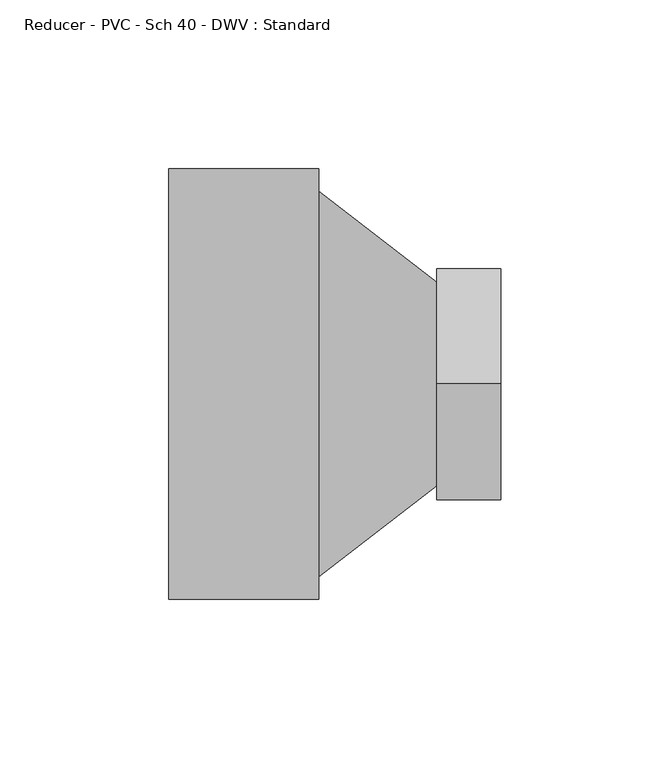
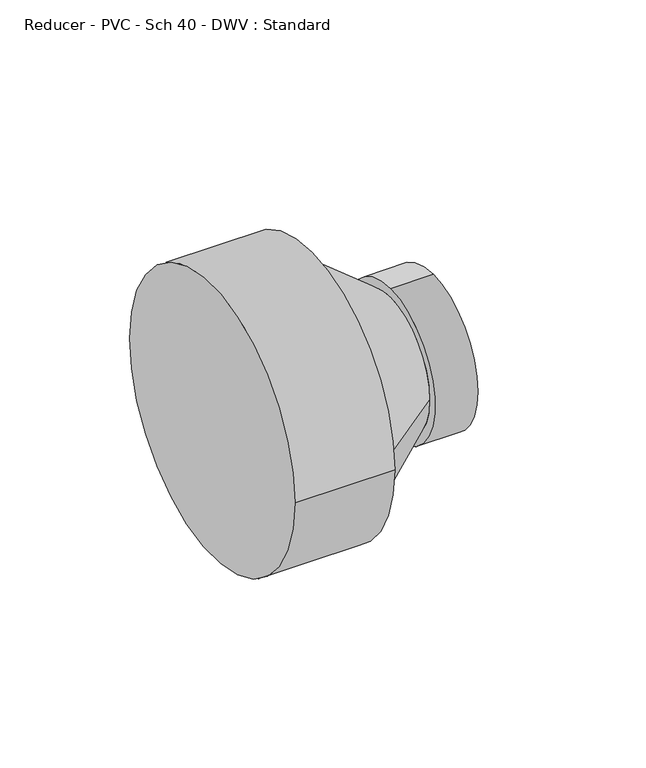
"""IFC4 building model written with IfcOpenShell, lengths in millimetres: pipe fitting geometry, Reducer - PVC - Sch 40 - DWV : Standard."""

from ifc_helpers import new_model, si_unit, frame, origin, place, context, project, spatial, polyline, circle_curve, source, transform, mapped, element, save
from ifc_brep_helpers import plane_surface, cylinder_surface, revolved_surface, advanced_brep


def reducer_pvc_sch_40_dwv_standard_49186a3e(model_context):
    return source(origin(), model_context, "Body", "AdvancedBrep", [
        advanced_brep(
        [(0.0, 63.754, 0.0), (0.0, -63.754, 0.0), (44.45, 63.754, 0.0), (44.45, -63.754, 0.0), (44.45, -57.15, 0.0), (44.45, 57.15, 0.0), (79.375, 30.1625, 0.0), (79.375, -30.1625, 0.0), (79.375, 0.0, 34.3154), (79.375, 0.0, -34.3154), (98.425, 0.0, 34.3154), (98.425, 0.0, -34.3154)],
        [
            (0, 1, circle_curve(frame((0.0, 0.0, 0.0), z_axis=(-1.0, 0.0, 0.0), x_axis=(0.0, -1.0, 0.0)), 63.754)),
            (1, 0, circle_curve(frame((0.0, 0.0, 0.0), z_axis=(-1.0, 0.0, 0.0), x_axis=(0.0, -1.0, 0.0)), 63.754)),
            (2, 3, circle_curve(frame((44.45, 0.0, 0.0), z_axis=(1.0, 0.0, 0.0), x_axis=(0.0, -1.0, 0.0)), 63.754)),
            (3, 2, circle_curve(frame((44.45, 0.0, 0.0), z_axis=(1.0, 0.0, 0.0), x_axis=(0.0, -1.0, 0.0)), 63.754)),
            (4, 5, circle_curve(frame((44.45, 0.0, 0.0), z_axis=(-1.0, 0.0, 0.0), x_axis=(0.0, -1.0, 0.0)), 57.15)),
            (5, 4, circle_curve(frame((44.45, 0.0, 0.0), z_axis=(-1.0, 0.0, 0.0), x_axis=(0.0, 1.0, 0.0)), 57.15)),
            (1, 3),
            (2, 0),
            (5, 6),
            (6, 7, circle_curve(frame((79.375, 0.0, 0.0), z_axis=(-1.0, 0.0, 0.0), x_axis=(0.0, 1.0, 0.0)), 30.1625)),
            (7, 4),
            (7, 6, circle_curve(frame((79.375, 0.0, 0.0), z_axis=(-1.0, 0.0, 0.0), x_axis=(0.0, -1.0, 0.0)), 30.1625)),
            (8, 9, circle_curve(frame((79.375, 0.0, 0.0), z_axis=(-1.0, 0.0, 0.0), x_axis=(0.0, 0.0, -1.0)), 34.3154)),
            (9, 8, circle_curve(frame((79.375, 0.0, 0.0), z_axis=(-1.0, 0.0, 0.0), x_axis=(0.0, 0.0, -1.0)), 34.3154)),
            (10, 11, circle_curve(frame((98.425, 0.0, 0.0), z_axis=(1.0, 0.0, 0.0), x_axis=(0.0, 0.0, -1.0)), 34.3154)),
            (11, 10, circle_curve(frame((98.425, 0.0, 0.0), z_axis=(1.0, 0.0, 0.0), x_axis=(0.0, 0.0, -1.0)), 34.3154)),
            (9, 11),
            (10, 8),
        ],
        [
            plane_surface(frame((0.0, 0.0, 0.0), z_axis=(-1.0, 0.0, 0.0), x_axis=(0.0, 0.0, 1.0))),
            plane_surface(frame((44.45, 0.0, 0.0), z_axis=(1.0, 0.0, 0.0), x_axis=(0.0, 0.0, 1.0))),
            cylinder_surface(frame((0.0, 0.0, 0.0), z_axis=(-1.0, 0.0, 0.0), x_axis=(0.0, -1.0, 0.0)), 63.754),
            revolved_surface(polyline([(79.375, -30.162499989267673, 0.0), (44.45, -57.15, 0.0)]), (118.4088235, 0.0, 0.0), (-1.0, 0.0, 0.0)),
            revolved_surface(polyline([(79.375, 30.162499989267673, 0.0), (44.45, 57.15, 0.0)]), (118.4088235, 0.0, 0.0), (-1.0, 0.0, 0.0)),
            plane_surface(frame((79.375, 0.0, 0.0), z_axis=(-1.0, 0.0, 0.0), x_axis=(0.0, -1.0, 0.0))),
            plane_surface(frame((98.425, 0.0, 0.0), z_axis=(1.0, 0.0, 0.0), x_axis=(0.0, -1.0, 0.0))),
            cylinder_surface(frame((79.375, 0.0, 0.0), z_axis=(-1.0, 0.0, 0.0), x_axis=(0.0, 0.0, -1.0)), 34.3154),
        ],
        [
            (0, [[1, 2]]),
            (1, [[3, 4], [5, 6]]),
            (2, [[7, -3, 8, -2]]),
            (2, [[-8, -4, -7, -1]]),
            (3, [[-6, 9, 10, 11]]),
            (4, [[12, -9, -5, -11]]),
            (5, [[13, 14], [-12, -10]]),
            (6, [[15, 16]]),
            (7, [[17, -15, 18, -14]]),
            (7, [[-18, -16, -17, -13]]),
        ],
    ),
    ])


if __name__ == "__main__":
    model = new_model("IFC4")
    model_context = context("Model", 3, world=origin())
    ifc_project = project(units=[si_unit("LENGTHUNIT", "METRE", prefix="MILLI")], contexts=[model_context])
    site = spatial("IfcSite", under=ifc_project)
    building = spatial("IfcBuilding", under=site)
    placement = place(None, origin())
    reducer_pvc_sch_40_dwv_standard_shape = reducer_pvc_sch_40_dwv_standard_49186a3e(model_context)
    element("IfcPipeFitting", 1, ObjectType="Reducer - PVC - Sch 40 - DWV : Standard", at=placement, inside=building, context=model_context, shape_type="MappedRepresentation", body=[
        mapped(reducer_pvc_sch_40_dwv_standard_shape, transform((0.0, 0.0, 0.0), x_axis=(1.0, 0.0, 0.0), y_axis=(0.0, 1.0, 0.0), z_axis=(0.0, 0.0, 1.0))),
    ])
    save(model, "model.ifc")
